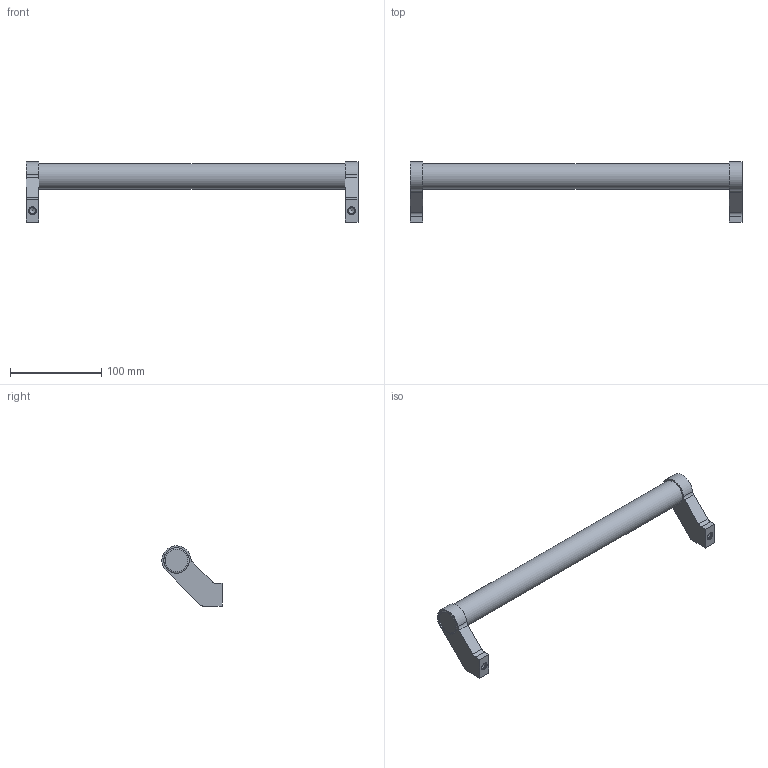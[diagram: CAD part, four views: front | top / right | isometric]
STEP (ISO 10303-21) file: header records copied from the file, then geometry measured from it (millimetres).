
FILE_DESCRIPTION( ( 'STEP AP203' ), '1' );
FILE_NAME( 'C:/Temp/Ganter_Step_05_03_2020/data/1_2/gn333/Tubular handle GN 333-28-350-A-SW.stp', '2020-03-05T10:16:15', ( 'License CC BY-ND 4.0' ), ( 'CADENAS' ), ' ', 'PARTsolutions', ' ' );
FILE_SCHEMA( ( 'CONFIG_CONTROL_DESIGN' ) );
Length unit declared in the file: millimetre
Products named in the file (1): _Tubular handle GN 333-28-350-A-SW
Bounding box: 364 x 65.95 x 65.97 mm (x, y, z)
Volume: 267434.2 mm3; surface area: 44254.5 mm2
Topology: 1 solids, 1 shells, 47 faces, 110 edges, 71 vertices
Faces by surface type: plane 26, cylinder 15, cone 4, torus 2
Full cylindrical faces by diameter (mm): 6.647 x2, 8.5 x2, 28 x3
Entity records: 1348 total; most frequent: CARTESIAN_POINT 278, DIRECTION 218, ORIENTED_EDGE 188, EDGE_CURVE 94, AXIS2_PLACEMENT_3D 84, VERTEX_POINT 68, EDGE_LOOP 64, FACE_OUTER_BOUND 54
